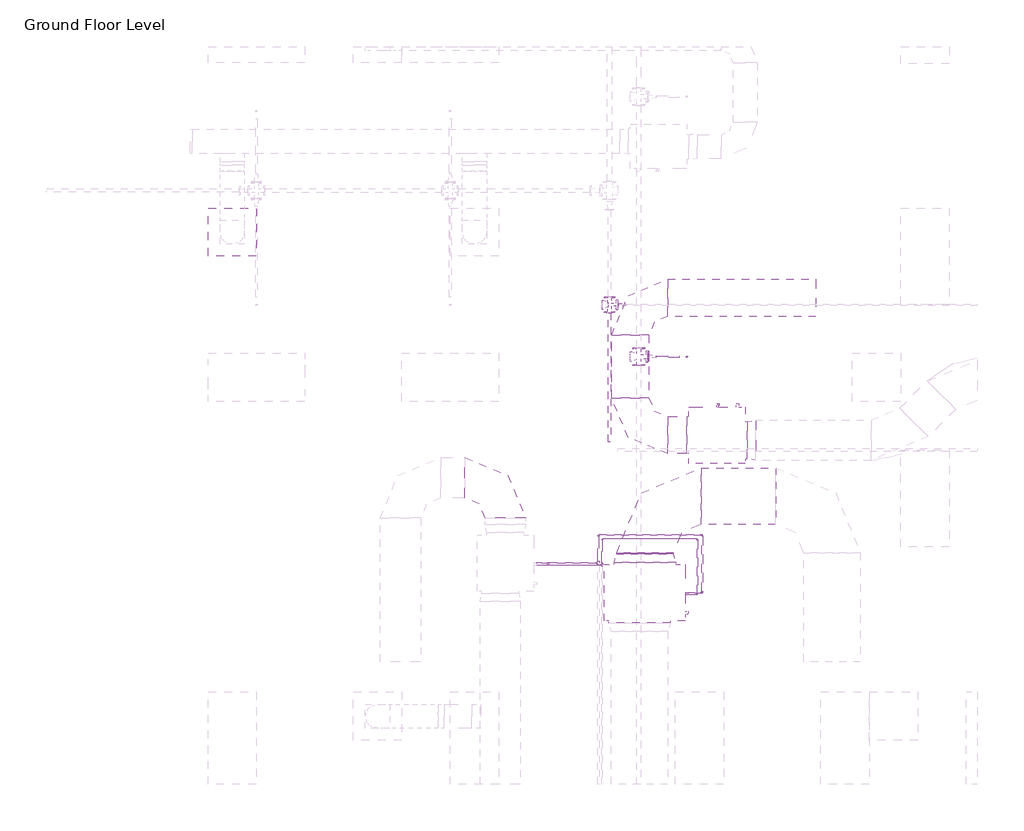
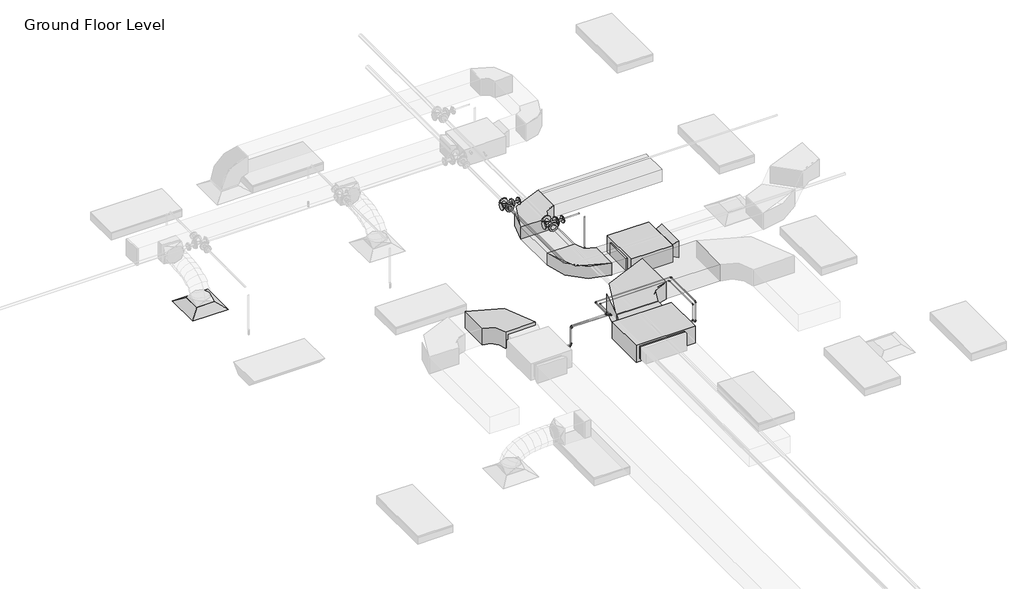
# One storey, part 33 of 66: 22 pipe fittings, 19 pipe segments, 6 duct fittings, 5 duct segments, 2 proxies, 1 air terminal, 1 fire suppression terminal.
"""IFC4 building model written with IfcOpenShell, lengths in millimetres."""

from ifc_helpers import new_model, si_unit, point, frame, frame_2d, origin, place, context, project, spatial, polyline, circle_curve, trimmed, segment, composite_curve, outline, extrude, transform, mapped, element, save
from components import m_return_diffuser_600_x_600_face_300_x_300_connection_ff221211, fcu_daikin_iu_7e1df382, fcu_daikin_iu_bad131e0, m_rectangular_elbow_radius_1_w_54c96895, m_rectangular_elbow_radius_1_w_abe20169, m_rectangular_elbow_radius_1_w_8a62b27e, m_rectangular_transition_angle_45_degree_2b595dfe, m_rectangular_transition_angle_45_degree_603cf0b0, m_sprinkler_pendent_15_mm_pendent_06fcbd8e, m_elbow_generic_standard_a088f956, m_elbow_generic_standard_2a704253, m_reducer_flanged_cs_class_150_standard_ccf252ad, m_reducer_flanged_cs_class_150_standard_83138b42, m_tee_generic_standard_cdc1cff5, m_tee_generic_standard_d9c36a1d, m_tee_round_base_flanged_cs_class_150_standard_7e5987a1, m_tee_round_base_flanged_cs_class_150_standard_ab36f383, m_transition_generic_standard_6dc712c0, m_transition_generic_standard_b63c8674

model = new_model("IFC4")

# Units and contexts
model_context = context("Model", 3, world=origin())
ifc_project = project(units=[si_unit("LENGTHUNIT", "METRE", prefix="MILLI")], contexts=[model_context])

# Site, building, storey
site = spatial("IfcSite", under=ifc_project)
building = spatial("IfcBuilding", under=site)
storey = spatial("IfcBuildingStorey", under=building, Name="Ground Floor Level", Elevation=900.0)

# Air terminal
placement = place(None, origin())
m_return_diffuser_600_x_600_face_300_x_300_connection_shape = m_return_diffuser_600_x_600_face_300_x_300_connection_ff221211(model_context)
element("IfcAirTerminal", 1, ObjectType="M_Supply Diffuser : 600 x 600 Face 300 x 300 Connection", at=placement, inside=storey, context=model_context, shape_type="MappedRepresentation", body=[
    mapped(m_return_diffuser_600_x_600_face_300_x_300_connection_shape, transform((962.7672395, -3464.7846466, 3650.0), x_axis=(1.0, 0.0, 0.0), y_axis=(0.0, 1.0, 0.0), z_axis=(0.0, 0.0, 1.0))),
])

# Proxies
fcu_daikin_iu_shape = fcu_daikin_iu_7e1df382(model_context)
element("IfcBuildingElementProxy", 2, Name="FCU-DAIKIN IU : 7.2kW, 230V/50Hz/1Ph", ObjectType="FCU-DAIKIN IU : 7.2kW, 230V/50Hz/1Ph", at=placement, inside=storey, context=model_context, shape_type="MappedRepresentation", body=[
    mapped(fcu_daikin_iu_shape, transform((6073.4139492, -7933.9358641, 3934.0875), x_axis=(1.0, 0.0, 0.0), y_axis=(0.0, 1.0, 0.0), z_axis=(0.0, 0.0, 1.0))),
])
fcu_daikin_iu_2_shape = fcu_daikin_iu_bad131e0(model_context)
element("IfcBuildingElementProxy", 3, Name="FCU-DAIKIN IU : 4.5kW, 230V/50Hz/1Ph", ObjectType="FCU-DAIKIN IU : 4.5kW, 230V/50Hz/1Ph", at=placement, inside=storey, context=model_context, shape_type="MappedRepresentation", body=[
    mapped(fcu_daikin_iu_2_shape, transform((6968.8139492, -5980.3220473, 3934.0932729), x_axis=(0.0, 1.0, 0.0), y_axis=(-1.0, 0.0, 0.0), z_axis=(0.0, 0.0, 1.0))),
])

# Duct fittings
m_rectangular_elbow_radius_1_w_shape = m_rectangular_elbow_radius_1_w_54c96895(model_context)
element("IfcDuctFitting", 4, ObjectType="M_Rectangular Elbow - Radius : 1 W", at=placement, inside=storey, context=model_context, shape_type="MappedRepresentation", body=[
    mapped(m_rectangular_elbow_radius_1_w_shape, transform((5893.4139492, -5980.3220473, 4075.2932729), x_axis=(0.0, -1.0, 0.0), y_axis=(1.0, 0.0, 0.0), z_axis=(0.0, 0.0, 1.0))),
])
element("IfcDuctFitting", 5, ObjectType="M_Rectangular Elbow - Radius : 1 W", at=placement, inside=storey, context=model_context, shape_type="MappedRepresentation", body=[
    mapped(m_rectangular_elbow_radius_1_w_shape, transform((5893.4139492, -4280.3216051, 4075.2932729), x_axis=(-1.0, 0.0, 0.0), y_axis=(0.0, -1.0, 0.0), z_axis=(0.0, 0.0, 1.0))),
])
m_rectangular_elbow_radius_1_w_2_shape = m_rectangular_elbow_radius_1_w_abe20169(model_context)
element("IfcDuctFitting", 6, ObjectType="M_Rectangular Elbow - Radius : 1 W", at=placement, inside=storey, context=model_context, shape_type="MappedRepresentation", body=[
    mapped(m_rectangular_elbow_radius_1_w_2_shape, transform((4345.6581888, -6509.6566353, 4075.2874218), x_axis=(0.0, 1.0, 0.0), y_axis=(-1.0, 0.0, 0.0), z_axis=(0.0, 0.0, 1.0))),
])
m_rectangular_elbow_radius_1_w_3_shape = m_rectangular_elbow_radius_1_w_8a62b27e(model_context)
element("IfcDuctFitting", 7, ObjectType="M_Rectangular Elbow - Radius : 1 W", at=placement, inside=storey, context=model_context, shape_type="MappedRepresentation", body=[
    mapped(m_rectangular_elbow_radius_1_w_3_shape, transform((6073.4139492, -6738.5358641, 4075.2875), x_axis=(-1.0, 0.0, 0.0), y_axis=(0.0, -1.0, 0.0), z_axis=(0.0, 0.0, 1.0))),
])
m_rectangular_transition_angle_45_degree_shape = m_rectangular_transition_angle_45_degree_2b595dfe(model_context)
element("IfcDuctFitting", 8, ObjectType="M_Rectangular Transition - Angle : 45 Degree", at=placement, inside=storey, context=model_context, shape_type="MappedRepresentation", body=[
    mapped(m_rectangular_transition_angle_45_degree_shape, transform((7344.2139492, -6043.8220473, 4100.0057729), x_axis=(1.0, 0.0, 0.0), y_axis=(0.0, 1.0, 0.0), z_axis=(0.0, 0.0, 1.0))),
])
m_rectangular_transition_angle_45_degree_2_shape = m_rectangular_transition_angle_45_degree_603cf0b0(model_context)
element("IfcDuctFitting", 9, ObjectType="M_Rectangular Transition - Angle : 45 Degree", at=placement, inside=storey, context=model_context, shape_type="MappedRepresentation", body=[
    mapped(m_rectangular_transition_angle_45_degree_2_shape, transform((6073.4139492, -7558.5358641, 4075.2875), x_axis=(0.0, 1.0, 0.0), y_axis=(-1.0, 0.0, 0.0), z_axis=(0.0, 0.0, 1.0))),
])

# Duct segments
element("IfcDuctSegment", 10, ObjectType="Radius Elbows / Taps", at=placement, inside=storey, context=model_context, shape_type="SweptSolid", body=[
    extrude(outline(polyline([(6593.4139492, -5749.3845473), (6593.4139492, -6211.2595473), (6355.2889492, -6211.2595473), (6355.2889492, -5749.3845473), (6593.4139492, -5749.3845473)])), frame((0.0, 0.0, 3968.1432729), z_axis=(0.0, 0.0, 1.0), x_axis=(1.0, 0.0, 0.0)), (0.0, 0.0, 1.0), 214.3),
])
element("IfcDuctSegment", 11, ObjectType="Radius Elbows / Taps", at=placement, inside=storey, context=model_context, shape_type="SweptSolid", body=[
    extrude(outline(polyline([(6124.3514492, -5518.4470473), (5662.4764492, -5518.4470473), (5662.4764492, -4742.1966051), (6124.3514492, -4742.1966051), (6124.3514492, -5518.4470473)])), frame((0.0, 0.0, 3968.1432729), z_axis=(0.0, 0.0, 1.0), x_axis=(1.0, 0.0, 0.0)), (0.0, 0.0, 1.0), 214.3),
])
element("IfcDuctSegment", 12, ObjectType="Radius Elbows / Taps", at=placement, inside=storey, context=model_context, shape_type="SweptSolid", body=[
    extrude(outline(polyline([(6355.2889492, -4511.2591051), (6355.2889492, -4049.3841051), (8193.4139492, -4049.3841051), (8193.4139492, -4511.2591051), (6355.2889492, -4511.2591051)])), frame((0.0, 0.0, 3968.1432729), z_axis=(0.0, 0.0, 1.0), x_axis=(1.0, 0.0, 0.0)), (0.0, 0.0, 1.0), 214.3),
])
element("IfcDuctSegment", 13, ObjectType="Radius Elbows / Taps", at=placement, inside=storey, context=model_context, shape_type="SweptSolid", body=[
    extrude(outline(polyline([(6423.4139492, -7455.086813), (5723.4139492, -7455.086813), (5723.4139492, -7438.5358641), (6423.4139492, -7438.5358641), (6423.4139492, -7455.086813)])), frame((0.0, 0.0, 3925.2875), z_axis=(0.0, 0.0, 1.0), x_axis=(1.0, 0.0, 0.0)), (0.0, 0.0, 1.0), 300.0),
])
element("IfcDuctSegment", 14, ObjectType="Radius Elbows / Taps", at=placement, inside=storey, context=model_context, shape_type="SweptSolid", body=[
    extrude(outline(polyline([(6773.4139492, -7088.5358641), (6773.4139492, -6388.5358641), (7693.4139492, -6388.5358641), (7693.4139492, -7088.5358641), (6773.4139492, -7088.5358641)])), frame((0.0, 0.0, 3925.2875), z_axis=(0.0, 0.0, 1.0), x_axis=(1.0, 0.0, 0.0)), (0.0, 0.0, 1.0), 300.0),
])

# Fire suppression terminal
m_sprinkler_pendent_15_mm_pendent_shape = m_sprinkler_pendent_15_mm_pendent_06fcbd8e(model_context)
element("IfcFireSuppressionTerminal", 15, ObjectType="M_Sprinkler - Pendent : 15 mm Pendent", at=placement, inside=storey, context=model_context, shape_type="MappedRepresentation", body=[
    mapped(m_sprinkler_pendent_15_mm_pendent_shape, transform((6592.5481019, -5008.8364761, 3650.0), x_axis=(1.0, 0.0, 0.0), y_axis=(0.0, 1.0, 0.0), z_axis=(0.0, 0.0, 1.0))),
])

# Pipe fittings
m_elbow_generic_standard_shape = m_elbow_generic_standard_a088f956(model_context)
element("IfcPipeFitting", 16, ObjectType="M_Elbow - Generic : Standard", at=placement, inside=storey, context=model_context, shape_type="MappedRepresentation", body=[
    mapped(m_elbow_generic_standard_shape, transform((4878.7581888, -7565.0566353, 4034.0874218), x_axis=(1.0, 0.0, 0.0), y_axis=(0.0, 0.0, 1.0), z_axis=(0.0, -1.0, 0.0))),
])
element("IfcPipeFitting", 17, ObjectType="M_Elbow - Generic : Standard", at=placement, inside=storey, context=model_context, shape_type="MappedRepresentation", body=[
    mapped(m_elbow_generic_standard_shape, transform((4878.7581888, -7565.0566353, 4390.0), x_axis=(0.0, 0.0, 1.0), y_axis=(1.0, 0.0, 0.0), z_axis=(0.0, 1.0, 0.0))),
])
element("IfcPipeFitting", 18, ObjectType="M_Elbow - Generic : Standard", at=placement, inside=storey, context=model_context, shape_type="MappedRepresentation", body=[
    mapped(m_elbow_generic_standard_shape, transform((5497.8951827, -7216.0289893, 4390.0), x_axis=(-1.0, 0.0, 0.0), y_axis=(0.0, -1.0, 0.0), z_axis=(0.0, 0.0, 1.0))),
])
element("IfcPipeFitting", 19, ObjectType="M_Elbow - Generic : Standard", at=placement, inside=storey, context=model_context, shape_type="MappedRepresentation", body=[
    mapped(m_elbow_generic_standard_shape, transform((6782.8951827, -7216.0289893, 4390.0), x_axis=(0.0, 1.0, 0.0), y_axis=(-1.0, 0.0, 0.0), z_axis=(0.0, 0.0, 1.0))),
])
element("IfcPipeFitting", 20, ObjectType="M_Elbow - Generic : Standard", at=placement, inside=storey, context=model_context, shape_type="MappedRepresentation", body=[
    mapped(m_elbow_generic_standard_shape, transform((6782.8951827, -7933.9358641, 4390.0), x_axis=(0.0, -1.0, 0.0), y_axis=(0.0, 0.0, -1.0), z_axis=(1.0, 0.0, 0.0))),
])
element("IfcPipeFitting", 21, ObjectType="M_Elbow - Generic : Standard", at=placement, inside=storey, context=model_context, shape_type="MappedRepresentation", body=[
    mapped(m_elbow_generic_standard_shape, transform((6782.8951827, -7933.9358641, 4034.0875), x_axis=(0.0, 0.0, -1.0), y_axis=(-1.0, 0.0, 0.0), z_axis=(0.0, 1.0, 0.0))),
])
m_elbow_generic_standard_2_shape = m_elbow_generic_standard_2a704253(model_context)
element("IfcPipeFitting", 22, ObjectType="M_Elbow - Generic : Standard", at=placement, inside=storey, context=model_context, shape_type="MappedRepresentation", body=[
    mapped(m_elbow_generic_standard_2_shape, transform((4878.7581888, -7590.0566353, 4084.8874218), x_axis=(1.0, 0.0, 0.0), y_axis=(0.0, 0.0, 1.0), z_axis=(0.0, -1.0, 0.0))),
])
element("IfcPipeFitting", 23, ObjectType="M_Elbow - Generic : Standard", at=placement, inside=storey, context=model_context, shape_type="MappedRepresentation", body=[
    mapped(m_elbow_generic_standard_2_shape, transform((4878.7581888, -7590.0566353, 4377.5), x_axis=(0.0, 0.0, 1.0), y_axis=(1.0, 0.0, 0.0), z_axis=(0.0, 1.0, 0.0))),
])
element("IfcPipeFitting", 24, ObjectType="M_Elbow - Generic : Standard", at=placement, inside=storey, context=model_context, shape_type="MappedRepresentation", body=[
    mapped(m_elbow_generic_standard_2_shape, transform((5543.9904113, -7267.2400492, 4377.5), x_axis=(-1.0, 0.0, 0.0), y_axis=(0.0, -1.0, 0.0), z_axis=(0.0, 0.0, 1.0))),
])
element("IfcPipeFitting", 25, ObjectType="M_Elbow - Generic : Standard", at=placement, inside=storey, context=model_context, shape_type="MappedRepresentation", body=[
    mapped(m_elbow_generic_standard_2_shape, transform((6723.9904113, -7267.2400492, 4377.5), x_axis=(0.0, 1.0, 0.0), y_axis=(-1.0, 0.0, 0.0), z_axis=(0.0, 0.0, 1.0))),
])
element("IfcPipeFitting", 26, ObjectType="M_Elbow - Generic : Standard", at=placement, inside=storey, context=model_context, shape_type="MappedRepresentation", body=[
    mapped(m_elbow_generic_standard_2_shape, transform((6723.9904113, -7958.9358641, 4377.5), x_axis=(0.0, -1.0, 0.0), y_axis=(0.0, 0.0, -1.0), z_axis=(1.0, 0.0, 0.0))),
])
element("IfcPipeFitting", 27, ObjectType="M_Elbow - Generic : Standard", at=placement, inside=storey, context=model_context, shape_type="MappedRepresentation", body=[
    mapped(m_elbow_generic_standard_2_shape, transform((6723.9904113, -7958.9358641, 4084.8875), x_axis=(0.0, 0.0, -1.0), y_axis=(-1.0, 0.0, 0.0), z_axis=(0.0, 1.0, 0.0))),
])
m_reducer_flanged_cs_class_150_standard_shape = m_reducer_flanged_cs_class_150_standard_ccf252ad(model_context)
element("IfcPipeFitting", 28, ObjectType="M_Reducer - Flanged - CS - Class 150 : Standard", at=placement, inside=storey, context=model_context, shape_type="MappedRepresentation", body=[
    mapped(m_reducer_flanged_cs_class_150_standard_shape, transform((5736.5780918, -4364.7846466, 4360.0), x_axis=(1.0, 0.0, 0.0), y_axis=(0.0, 0.0, 1.0), z_axis=(0.0, -1.0, 0.0))),
])
m_reducer_flanged_cs_class_150_standard_2_shape = m_reducer_flanged_cs_class_150_standard_83138b42(model_context)
element("IfcPipeFitting", 29, ObjectType="M_Reducer - Flanged - CS - Class 150 : Standard", at=placement, inside=storey, context=model_context, shape_type="MappedRepresentation", body=[
    mapped(m_reducer_flanged_cs_class_150_standard_2_shape, transform((6109.3164057, -5008.8364761, 4291.2754753), x_axis=(1.0, 0.0, 0.0), y_axis=(0.0, 0.0, -1.0), z_axis=(0.0, 1.0, 0.0))),
])
m_tee_generic_standard_shape = m_tee_generic_standard_cdc1cff5(model_context)
element("IfcPipeFitting", 30, ObjectType="M_Tee - Generic : Standard", at=placement, inside=storey, context=model_context, shape_type="MappedRepresentation", body=[
    mapped(m_tee_generic_standard_shape, transform((5497.8951827, -7565.0566353, 4390.0), x_axis=(0.0, -1.0, 0.0), y_axis=(1.0, 0.0, 0.0), z_axis=(0.0, 0.0, 1.0))),
])
m_tee_generic_standard_2_shape = m_tee_generic_standard_d9c36a1d(model_context)
element("IfcPipeFitting", 31, ObjectType="M_Tee - Generic : Standard", at=placement, inside=storey, context=model_context, shape_type="MappedRepresentation", body=[
    mapped(m_tee_generic_standard_2_shape, transform((5543.9904113, -7590.0566353, 4377.5), x_axis=(0.0, -1.0, 0.0), y_axis=(1.0, 0.0, 0.0), z_axis=(0.0, 0.0, 1.0))),
])
m_tee_round_base_flanged_cs_class_150_standard_shape = m_tee_round_base_flanged_cs_class_150_standard_7e5987a1(model_context)
element("IfcPipeFitting", 32, ObjectType="M_Tee Round Base - Flanged - CS - Class 150 : Standard", at=placement, inside=storey, context=model_context, shape_type="MappedRepresentation", body=[
    mapped(m_tee_round_base_flanged_cs_class_150_standard_shape, transform((5635.869498, -4364.7846466, 4360.0), x_axis=(0.0, 1.0, 0.0), y_axis=(-1.0, 0.0, 0.0), z_axis=(0.0, 0.0, 1.0))),
])
m_tee_round_base_flanged_cs_class_150_standard_2_shape = m_tee_round_base_flanged_cs_class_150_standard_ab36f383(model_context)
element("IfcPipeFitting", 33, ObjectType="M_Tee Round Base - Flanged - CS - Class 150 : Standard", at=placement, inside=storey, context=model_context, shape_type="MappedRepresentation", body=[
    mapped(m_tee_round_base_flanged_cs_class_150_standard_2_shape, transform((5997.057812, -5008.8364761, 4291.0943441), x_axis=(0.0, 1.0, 0.0), y_axis=(-1.0, 0.0, 0.0), z_axis=(0.0, 0.0, 1.0))),
])
m_transition_generic_standard_shape = m_transition_generic_standard_6dc712c0(model_context)
element("IfcPipeFitting", 34, ObjectType="M_Transition - Generic : Standard", at=placement, inside=storey, context=model_context, shape_type="MappedRepresentation", body=[
    mapped(m_transition_generic_standard_shape, transform((5475.6701827, -7565.0566353, 4390.0), x_axis=(-1.0, 0.0, 0.0), y_axis=(0.0, -1.0, 0.0), z_axis=(0.0, 0.0, 1.0))),
])
element("IfcPipeFitting", 35, ObjectType="M_Transition - Generic : Standard", at=placement, inside=storey, context=model_context, shape_type="MappedRepresentation", body=[
    mapped(m_transition_generic_standard_shape, transform((5497.8951827, -7542.8316353, 4390.0), x_axis=(0.0, 1.0, 0.0), y_axis=(-1.0, 0.0, 0.0), z_axis=(0.0, 0.0, 1.0))),
])
m_transition_generic_standard_2_shape = m_transition_generic_standard_b63c8674(model_context)
element("IfcPipeFitting", 36, ObjectType="M_Transition - Generic : Standard", at=placement, inside=storey, context=model_context, shape_type="MappedRepresentation", body=[
    mapped(m_transition_generic_standard_2_shape, transform((5524.9529113, -7590.0566353, 4377.5), x_axis=(-1.0, 0.0, 0.0), y_axis=(0.0, -1.0, 0.0), z_axis=(0.0, 0.0, 1.0))),
])
element("IfcPipeFitting", 37, ObjectType="M_Transition - Generic : Standard", at=placement, inside=storey, context=model_context, shape_type="MappedRepresentation", body=[
    mapped(m_transition_generic_standard_2_shape, transform((5543.9904113, -7571.0191353, 4377.5), x_axis=(0.0, 1.0, 0.0), y_axis=(-1.0, 0.0, 0.0), z_axis=(0.0, 0.0, 1.0))),
])

# Pipe segments
element("IfcPipeSegment", 38, ObjectType="Copper", at=placement, inside=storey, context=model_context, shape_type="SweptSolid", body=[
    extrude(outline(composite_curve([segment(trimmed(circle_curve(frame_2d((4390.0, 5497.8951827)), 6.5), [point((4390.0, 5504.3951827))], [point((4396.5, 5497.8951827))], False, "CARTESIAN"), True, "CONTINUOUS"), segment(trimmed(circle_curve(frame_2d((4390.0, 5497.8951827)), 6.5), [point((4396.5, 5497.8951827))], [point((4390.0, 5491.3951827))], False, "CARTESIAN"), True, "CONTINUOUS"), segment(trimmed(circle_curve(frame_2d((4390.0, 5497.8951827)), 6.5), [point((4390.0, 5491.3951827))], [point((4383.5, 5497.8951827))], False, "CARTESIAN"), True, "CONTINUOUS"), segment(trimmed(circle_curve(frame_2d((4390.0, 5497.8951827)), 6.5), [point((4383.5, 5497.8951827))], [point((4390.0, 5504.3951827))], False, "CARTESIAN"), True, "CONTINUOUS")], self_intersect=False)), frame((0.0, -7538.0691353, 0.0), z_axis=(0.0, 1.0, 0.0), x_axis=(0.0, 0.0, 1.0)), (0.0, 0.0, 1.0), 307.7526461),
])
element("IfcPipeSegment", 39, ObjectType="Copper", at=placement, inside=storey, context=model_context, shape_type="SweptSolid", body=[
    extrude(outline(composite_curve([segment(trimmed(circle_curve(frame_2d((-7590.0566353, 4084.8874218)), 3.35), [point((-7593.4066353, 4084.8874218))], [point((-7590.0566353, 4088.2374218))], False, "CARTESIAN"), True, "CONTINUOUS"), segment(trimmed(circle_curve(frame_2d((-7590.0566353, 4084.8874218)), 3.35), [point((-7590.0566353, 4088.2374218))], [point((-7586.7066353, 4084.8874218))], False, "CARTESIAN"), True, "CONTINUOUS"), segment(trimmed(circle_curve(frame_2d((-7590.0566353, 4084.8874218)), 3.35), [point((-7586.7066353, 4084.8874218))], [point((-7590.0566353, 4081.5374218))], False, "CARTESIAN"), True, "CONTINUOUS"), segment(trimmed(circle_curve(frame_2d((-7590.0566353, 4084.8874218)), 3.35), [point((-7590.0566353, 4081.5374218))], [point((-7593.4066353, 4084.8874218))], False, "CARTESIAN"), True, "CONTINUOUS")], self_intersect=False)), frame((4733.7581888, 0.0, 0.0), z_axis=(1.0, 0.0, 0.0), x_axis=(0.0, 1.0, 0.0)), (0.0, 0.0, 1.0), 133.8625),
])
element("IfcPipeSegment", 40, ObjectType="Copper", at=placement, inside=storey, context=model_context, shape_type="SweptSolid", body=[
    extrude(outline(composite_curve([segment(trimmed(circle_curve(frame_2d((-7565.0566353, 4034.0874218)), 6.5), [point((-7571.5566353, 4034.0874218))], [point((-7565.0566353, 4040.5874218))], False, "CARTESIAN"), True, "CONTINUOUS"), segment(trimmed(circle_curve(frame_2d((-7565.0566353, 4034.0874218)), 6.5), [point((-7565.0566353, 4040.5874218))], [point((-7558.5566353, 4034.0874218))], False, "CARTESIAN"), True, "CONTINUOUS"), segment(trimmed(circle_curve(frame_2d((-7565.0566353, 4034.0874218)), 6.5), [point((-7558.5566353, 4034.0874218))], [point((-7565.0566353, 4027.5874218))], False, "CARTESIAN"), True, "CONTINUOUS"), segment(trimmed(circle_curve(frame_2d((-7565.0566353, 4034.0874218)), 6.5), [point((-7565.0566353, 4027.5874218))], [point((-7571.5566353, 4034.0874218))], False, "CARTESIAN"), True, "CONTINUOUS")], self_intersect=False)), frame((4733.7581888, 0.0, 0.0), z_axis=(1.0, 0.0, 0.0), x_axis=(0.0, 1.0, 0.0)), (0.0, 0.0, 1.0), 130.7125),
])
element("IfcPipeSegment", 41, ObjectType="Copper", at=placement, inside=storey, context=model_context, shape_type="SweptSolid", body=[
    extrude(outline(composite_curve([segment(trimmed(circle_curve(frame_2d((-7590.0566353, 4377.5)), 3.35), [point((-7593.4066353, 4377.5))], [point((-7590.0566353, 4380.85))], False, "CARTESIAN"), True, "CONTINUOUS"), segment(trimmed(circle_curve(frame_2d((-7590.0566353, 4377.5)), 3.35), [point((-7590.0566353, 4380.85))], [point((-7586.7066353, 4377.5))], False, "CARTESIAN"), True, "CONTINUOUS"), segment(trimmed(circle_curve(frame_2d((-7590.0566353, 4377.5)), 3.35), [point((-7586.7066353, 4377.5))], [point((-7590.0566353, 4374.15))], False, "CARTESIAN"), True, "CONTINUOUS"), segment(trimmed(circle_curve(frame_2d((-7590.0566353, 4377.5)), 3.35), [point((-7590.0566353, 4374.15))], [point((-7593.4066353, 4377.5))], False, "CARTESIAN"), True, "CONTINUOUS")], self_intersect=False)), frame((4889.8956888, 0.0, 0.0), z_axis=(1.0, 0.0, 0.0), x_axis=(0.0, 1.0, 0.0)), (0.0, 0.0, 1.0), 631.8884725),
])
element("IfcPipeSegment", 42, ObjectType="Copper", at=placement, inside=storey, context=model_context, shape_type="SweptSolid", body=[
    extrude(outline(composite_curve([segment(trimmed(circle_curve(frame_2d((4878.7581888, -7590.0566353)), 3.35), [point((4875.4081888, -7590.0566353))], [point((4878.7581888, -7586.7066353))], False, "CARTESIAN"), True, "CONTINUOUS"), segment(trimmed(circle_curve(frame_2d((4878.7581888, -7590.0566353)), 3.35), [point((4878.7581888, -7586.7066353))], [point((4882.1081888, -7590.0566353))], False, "CARTESIAN"), True, "CONTINUOUS"), segment(trimmed(circle_curve(frame_2d((4878.7581888, -7590.0566353)), 3.35), [point((4882.1081888, -7590.0566353))], [point((4878.7581888, -7593.4066353))], False, "CARTESIAN"), True, "CONTINUOUS"), segment(trimmed(circle_curve(frame_2d((4878.7581888, -7590.0566353)), 3.35), [point((4878.7581888, -7593.4066353))], [point((4875.4081888, -7590.0566353))], False, "CARTESIAN"), True, "CONTINUOUS")], self_intersect=False)), frame((0.0, 0.0, 4096.0249218), z_axis=(0.0, 0.0, 1.0), x_axis=(1.0, 0.0, 0.0)), (0.0, 0.0, 1.0), 270.3375782),
])
element("IfcPipeSegment", 43, ObjectType="Copper", at=placement, inside=storey, context=model_context, shape_type="SweptSolid", body=[
    extrude(outline(composite_curve([segment(trimmed(circle_curve(frame_2d((-7565.0566353, 4390.0)), 6.5), [point((-7558.5566353, 4390.0))], [point((-7565.0566353, 4383.5))], False, "CARTESIAN"), True, "CONTINUOUS"), segment(trimmed(circle_curve(frame_2d((-7565.0566353, 4390.0)), 6.5), [point((-7565.0566353, 4383.5))], [point((-7571.5566353, 4390.0))], False, "CARTESIAN"), True, "CONTINUOUS"), segment(trimmed(circle_curve(frame_2d((-7565.0566353, 4390.0)), 6.5), [point((-7571.5566353, 4390.0))], [point((-7565.0566353, 4396.5))], False, "CARTESIAN"), True, "CONTINUOUS"), segment(trimmed(circle_curve(frame_2d((-7565.0566353, 4390.0)), 6.5), [point((-7565.0566353, 4396.5))], [point((-7558.5566353, 4390.0))], False, "CARTESIAN"), True, "CONTINUOUS")], self_intersect=False)), frame((4893.0456888, 0.0, 0.0), z_axis=(1.0, 0.0, 0.0), x_axis=(0.0, 1.0, 0.0)), (0.0, 0.0, 1.0), 577.8619939),
])
element("IfcPipeSegment", 44, ObjectType="Copper", at=placement, inside=storey, context=model_context, shape_type="SweptSolid", body=[
    extrude(outline(composite_curve([segment(trimmed(circle_curve(frame_2d((4878.7581888, -7565.0566353)), 6.5), [point((4872.2581888, -7565.0566353))], [point((4878.7581888, -7558.5566353))], False, "CARTESIAN"), True, "CONTINUOUS"), segment(trimmed(circle_curve(frame_2d((4878.7581888, -7565.0566353)), 6.5), [point((4878.7581888, -7558.5566353))], [point((4885.2581888, -7565.0566353))], False, "CARTESIAN"), True, "CONTINUOUS"), segment(trimmed(circle_curve(frame_2d((4878.7581888, -7565.0566353)), 6.5), [point((4885.2581888, -7565.0566353))], [point((4878.7581888, -7571.5566353))], False, "CARTESIAN"), True, "CONTINUOUS"), segment(trimmed(circle_curve(frame_2d((4878.7581888, -7565.0566353)), 6.5), [point((4878.7581888, -7571.5566353))], [point((4872.2581888, -7565.0566353))], False, "CARTESIAN"), True, "CONTINUOUS")], self_intersect=False)), frame((0.0, 0.0, 4048.3749218), z_axis=(0.0, 0.0, 1.0), x_axis=(1.0, 0.0, 0.0)), (0.0, 0.0, 1.0), 327.3375782),
])
element("IfcPipeSegment", 45, ObjectType="Copper", at=placement, inside=storey, context=model_context, shape_type="SweptSolid", body=[
    extrude(outline(composite_curve([segment(trimmed(circle_curve(frame_2d((0.0, 3.35)), 3.35), [point((0.0, 6.7))], [point((3.35, 3.35))], False, "CARTESIAN"), True, "CONTINUOUS"), segment(trimmed(circle_curve(frame_2d((0.0, 3.35)), 3.35), [point((3.35, 3.35))], [point((0.0, 0.0))], False, "CARTESIAN"), True, "CONTINUOUS"), segment(trimmed(circle_curve(frame_2d((0.0, 3.35)), 3.35), [point((0.0, 0.0))], [point((-3.35, 3.35))], False, "CARTESIAN"), True, "CONTINUOUS"), segment(trimmed(circle_curve(frame_2d((0.0, 3.35)), 3.35), [point((-3.35, 3.35))], [point((0.0, 6.7))], False, "CARTESIAN"), True, "CONTINUOUS")], self_intersect=False)), frame((5540.6404113, -7567.8503853, 4377.5), z_axis=(-5.656768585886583e-12, 1.0, 0.0), x_axis=(0.0, 0.0, 1.0)), (0.0, 0.0, 1.0), 289.4728361),
])
element("IfcPipeSegment", 46, ObjectType="Copper", at=placement, inside=storey, context=model_context, shape_type="SweptSolid", body=[
    extrude(outline(composite_curve([segment(trimmed(circle_curve(frame_2d((-7267.2400492, 4377.5)), 3.35), [point((-7270.5900492, 4377.5))], [point((-7267.2400492, 4380.85))], False, "CARTESIAN"), True, "CONTINUOUS"), segment(trimmed(circle_curve(frame_2d((-7267.2400492, 4377.5)), 3.35), [point((-7267.2400492, 4380.85))], [point((-7263.8900492, 4377.5))], False, "CARTESIAN"), True, "CONTINUOUS"), segment(trimmed(circle_curve(frame_2d((-7267.2400492, 4377.5)), 3.35), [point((-7263.8900492, 4377.5))], [point((-7267.2400492, 4374.15))], False, "CARTESIAN"), True, "CONTINUOUS"), segment(trimmed(circle_curve(frame_2d((-7267.2400492, 4377.5)), 3.35), [point((-7267.2400492, 4374.15))], [point((-7270.5900492, 4377.5))], False, "CARTESIAN"), True, "CONTINUOUS")], self_intersect=False)), frame((5555.1279113, 0.0, 0.0), z_axis=(1.0, 0.0, 0.0), x_axis=(0.0, 1.0, 0.0)), (0.0, 0.0, 1.0), 1157.725),
])
element("IfcPipeSegment", 47, ObjectType="Copper", at=placement, inside=storey, context=model_context, shape_type="SweptSolid", body=[
    extrude(outline(composite_curve([segment(trimmed(circle_curve(frame_2d((4377.5, 6723.9904113)), 3.35), [point((4377.5, 6720.6404113))], [point((4374.15, 6723.9904113))], False, "CARTESIAN"), True, "CONTINUOUS"), segment(trimmed(circle_curve(frame_2d((4377.5, 6723.9904113)), 3.35), [point((4374.15, 6723.9904113))], [point((4377.5, 6727.3404113))], False, "CARTESIAN"), True, "CONTINUOUS"), segment(trimmed(circle_curve(frame_2d((4377.5, 6723.9904113)), 3.35), [point((4377.5, 6727.3404113))], [point((4380.85, 6723.9904113))], False, "CARTESIAN"), True, "CONTINUOUS"), segment(trimmed(circle_curve(frame_2d((4377.5, 6723.9904113)), 3.35), [point((4380.85, 6723.9904113))], [point((4377.5, 6720.6404113))], False, "CARTESIAN"), True, "CONTINUOUS")], self_intersect=False)), frame((0.0, -7947.7983641, 0.0), z_axis=(0.0, 1.0, 0.0), x_axis=(0.0, 0.0, 1.0)), (0.0, 0.0, 1.0), 669.4208149),
])
element("IfcPipeSegment", 48, ObjectType="Copper", at=placement, inside=storey, context=model_context, shape_type="SweptSolid", body=[
    extrude(outline(composite_curve([segment(trimmed(circle_curve(frame_2d((-7216.0289893, 4390.0)), 6.5), [point((-7222.5289893, 4390.0))], [point((-7216.0289893, 4396.5))], False, "CARTESIAN"), True, "CONTINUOUS"), segment(trimmed(circle_curve(frame_2d((-7216.0289893, 4390.0)), 6.5), [point((-7216.0289893, 4396.5))], [point((-7209.5289893, 4390.0))], False, "CARTESIAN"), True, "CONTINUOUS"), segment(trimmed(circle_curve(frame_2d((-7216.0289893, 4390.0)), 6.5), [point((-7209.5289893, 4390.0))], [point((-7216.0289893, 4383.5))], False, "CARTESIAN"), True, "CONTINUOUS"), segment(trimmed(circle_curve(frame_2d((-7216.0289893, 4390.0)), 6.5), [point((-7216.0289893, 4383.5))], [point((-7222.5289893, 4390.0))], False, "CARTESIAN"), True, "CONTINUOUS")], self_intersect=False)), frame((5512.1826827, 0.0, 0.0), z_axis=(1.0, 0.0, 0.0), x_axis=(0.0, 1.0, 0.0)), (0.0, 0.0, 1.0), 1256.425),
])
element("IfcPipeSegment", 49, ObjectType="Copper", at=placement, inside=storey, context=model_context, shape_type="SweptSolid", body=[
    extrude(outline(composite_curve([segment(trimmed(circle_curve(frame_2d((4390.0, 6782.8951827)), 6.5), [point((4390.0, 6776.3951827))], [point((4383.5, 6782.8951827))], False, "CARTESIAN"), True, "CONTINUOUS"), segment(trimmed(circle_curve(frame_2d((4390.0, 6782.8951827)), 6.5), [point((4383.5, 6782.8951827))], [point((4390.0, 6789.3951827))], False, "CARTESIAN"), True, "CONTINUOUS"), segment(trimmed(circle_curve(frame_2d((4390.0, 6782.8951827)), 6.5), [point((4390.0, 6789.3951827))], [point((4396.5, 6782.8951827))], False, "CARTESIAN"), True, "CONTINUOUS"), segment(trimmed(circle_curve(frame_2d((4390.0, 6782.8951827)), 6.5), [point((4396.5, 6782.8951827))], [point((4390.0, 6776.3951827))], False, "CARTESIAN"), True, "CONTINUOUS")], self_intersect=False)), frame((0.0, -7919.6483641, 0.0), z_axis=(0.0, 1.0, 0.0), x_axis=(0.0, 0.0, 1.0)), (0.0, 0.0, 1.0), 689.3318749),
])
element("IfcPipeSegment", 50, ObjectType="Copper", at=placement, inside=storey, context=model_context, shape_type="SweptSolid", body=[
    extrude(outline(composite_curve([segment(trimmed(circle_curve(frame_2d((-7933.9358641, 4034.0875)), 6.5), [point((-7927.4358641, 4034.0875))], [point((-7933.9358641, 4027.5875))], False, "CARTESIAN"), True, "CONTINUOUS"), segment(trimmed(circle_curve(frame_2d((-7933.9358641, 4034.0875)), 6.5), [point((-7933.9358641, 4027.5875))], [point((-7940.4358641, 4034.0875))], False, "CARTESIAN"), True, "CONTINUOUS"), segment(trimmed(circle_curve(frame_2d((-7933.9358641, 4034.0875)), 6.5), [point((-7940.4358641, 4034.0875))], [point((-7933.9358641, 4040.5875))], False, "CARTESIAN"), True, "CONTINUOUS"), segment(trimmed(circle_curve(frame_2d((-7933.9358641, 4034.0875)), 6.5), [point((-7933.9358641, 4040.5875))], [point((-7927.4358641, 4034.0875))], False, "CARTESIAN"), True, "CONTINUOUS")], self_intersect=False)), frame((6611.5139492, 0.0, 0.0), z_axis=(1.0, 0.0, 0.0), x_axis=(0.0, 1.0, 0.0)), (0.0, 0.0, 1.0), 157.0937334),
])
element("IfcPipeSegment", 51, ObjectType="Copper", at=placement, inside=storey, context=model_context, shape_type="SweptSolid", body=[
    extrude(outline(composite_curve([segment(trimmed(circle_curve(frame_2d((-7958.9358641, 4084.8875)), 3.35), [point((-7955.5858641, 4084.8875))], [point((-7958.9358641, 4081.5375))], False, "CARTESIAN"), True, "CONTINUOUS"), segment(trimmed(circle_curve(frame_2d((-7958.9358641, 4084.8875)), 3.35), [point((-7958.9358641, 4081.5375))], [point((-7962.2858641, 4084.8875))], False, "CARTESIAN"), True, "CONTINUOUS"), segment(trimmed(circle_curve(frame_2d((-7958.9358641, 4084.8875)), 3.35), [point((-7962.2858641, 4084.8875))], [point((-7958.9358641, 4088.2375))], False, "CARTESIAN"), True, "CONTINUOUS"), segment(trimmed(circle_curve(frame_2d((-7958.9358641, 4084.8875)), 3.35), [point((-7958.9358641, 4088.2375))], [point((-7955.5858641, 4084.8875))], False, "CARTESIAN"), True, "CONTINUOUS")], self_intersect=False)), frame((6611.5139492, 0.0, 0.0), z_axis=(1.0, 0.0, 0.0), x_axis=(0.0, 1.0, 0.0)), (0.0, 0.0, 1.0), 101.3389621),
])
element("IfcPipeSegment", 52, ObjectType="Copper", at=placement, inside=storey, context=model_context, shape_type="SweptSolid", body=[
    extrude(outline(composite_curve([segment(trimmed(circle_curve(frame_2d((6723.9904113, -7958.9358641)), 3.35), [point((6727.3404113, -7958.9358641))], [point((6723.9904113, -7962.2858641))], False, "CARTESIAN"), True, "CONTINUOUS"), segment(trimmed(circle_curve(frame_2d((6723.9904113, -7958.9358641)), 3.35), [point((6723.9904113, -7962.2858641))], [point((6720.6404113, -7958.9358641))], False, "CARTESIAN"), True, "CONTINUOUS"), segment(trimmed(circle_curve(frame_2d((6723.9904113, -7958.9358641)), 3.35), [point((6720.6404113, -7958.9358641))], [point((6723.9904113, -7955.5858641))], False, "CARTESIAN"), True, "CONTINUOUS"), segment(trimmed(circle_curve(frame_2d((6723.9904113, -7958.9358641)), 3.35), [point((6723.9904113, -7955.5858641))], [point((6727.3404113, -7958.9358641))], False, "CARTESIAN"), True, "CONTINUOUS")], self_intersect=False)), frame((0.0, 0.0, 4096.025), z_axis=(0.0, 0.0, 1.0), x_axis=(1.0, 0.0, 0.0)), (0.0, 0.0, 1.0), 270.3375),
])
element("IfcPipeSegment", 53, ObjectType="Copper", at=placement, inside=storey, context=model_context, shape_type="SweptSolid", body=[
    extrude(outline(composite_curve([segment(trimmed(circle_curve(frame_2d((6782.8951827, -7933.9358641)), 6.5), [point((6789.3951827, -7933.9358641))], [point((6782.8951827, -7940.4358641))], False, "CARTESIAN"), True, "CONTINUOUS"), segment(trimmed(circle_curve(frame_2d((6782.8951827, -7933.9358641)), 6.5), [point((6782.8951827, -7940.4358641))], [point((6776.3951827, -7933.9358641))], False, "CARTESIAN"), True, "CONTINUOUS"), segment(trimmed(circle_curve(frame_2d((6782.8951827, -7933.9358641)), 6.5), [point((6776.3951827, -7933.9358641))], [point((6782.8951827, -7927.4358641))], False, "CARTESIAN"), True, "CONTINUOUS"), segment(trimmed(circle_curve(frame_2d((6782.8951827, -7933.9358641)), 6.5), [point((6782.8951827, -7927.4358641))], [point((6789.3951827, -7933.9358641))], False, "CARTESIAN"), True, "CONTINUOUS")], self_intersect=False)), frame((0.0, 0.0, 4048.375), z_axis=(0.0, 0.0, 1.0), x_axis=(1.0, 0.0, 0.0)), (0.0, 0.0, 1.0), 327.3375),
])
element("IfcPipeSegment", 54, ObjectType="Steel flanged", at=placement, inside=storey, context=model_context, shape_type="SweptSolid", body=[
    extrude(outline(composite_curve([segment(trimmed(circle_curve(frame_2d((6592.5481019, -5008.8364761)), 10.668), [point((6581.8801019, -5008.8364761))], [point((6592.5481019, -4998.1684761))], False, "CARTESIAN"), True, "CONTINUOUS"), segment(trimmed(circle_curve(frame_2d((6592.5481019, -5008.8364761)), 10.668), [point((6592.5481019, -4998.1684761))], [point((6603.2161019, -5008.8364761))], False, "CARTESIAN"), True, "CONTINUOUS"), segment(trimmed(circle_curve(frame_2d((6592.5481019, -5008.8364761)), 10.668), [point((6603.2161019, -5008.8364761))], [point((6592.5481019, -5019.5044761))], False, "CARTESIAN"), True, "CONTINUOUS"), segment(trimmed(circle_curve(frame_2d((6592.5481019, -5008.8364761)), 10.668), [point((6592.5481019, -5019.5044761))], [point((6581.8801019, -5008.8364761))], False, "CARTESIAN"), True, "CONTINUOUS")], self_intersect=False)), frame((0.0, 0.0, 3650.0), z_axis=(0.0, 0.0, 1.0), x_axis=(1.0, 0.0, 0.0)), (0.0, 0.0, 1.0), 548.2668816),
])
element("IfcPipeSegment", 55, ObjectType="Steel flanged", at=placement, inside=storey, context=model_context, shape_type="SweptSolid", body=[
    extrude(outline(composite_curve([segment(trimmed(circle_curve(frame_2d((-5008.8364761, 4291.2754753)), 10.668), [point((-4998.1684761, 4291.2754753))], [point((-5008.8364761, 4280.6074753))], False, "CARTESIAN"), True, "CONTINUOUS"), segment(trimmed(circle_curve(frame_2d((-5008.8364761, 4291.2754753)), 10.668), [point((-5008.8364761, 4280.6074753))], [point((-5019.5044761, 4291.2754753))], False, "CARTESIAN"), True, "CONTINUOUS"), segment(trimmed(circle_curve(frame_2d((-5008.8364761, 4291.2754753)), 10.668), [point((-5019.5044761, 4291.2754753))], [point((-5008.8364761, 4301.9434753))], False, "CARTESIAN"), True, "CONTINUOUS"), segment(trimmed(circle_curve(frame_2d((-5008.8364761, 4291.2754753)), 10.668), [point((-5008.8364761, 4301.9434753))], [point((-4998.1684761, 4291.2754753))], False, "CARTESIAN"), True, "CONTINUOUS")], self_intersect=False)), frame((6223.3164057, 0.0, 0.0), z_axis=(1.0, 0.0, 0.0), x_axis=(0.0, 1.0, 0.0)), (0.0, 0.0, 1.0), 276.2231025),
])
element("IfcPipeSegment", 56, ObjectType="Steel flanged", at=placement, inside=storey, context=model_context, shape_type="SweptSolid", body=[
    extrude(outline(composite_curve([segment(trimmed(circle_curve(frame_2d((4360.0, 5635.869498)), 16.7005), [point((4360.0, 5619.168998))], [point((4343.2995, 5635.869498))], False, "CARTESIAN"), True, "CONTINUOUS"), segment(trimmed(circle_curve(frame_2d((4360.0, 5635.869498)), 16.7005), [point((4343.2995, 5635.869498))], [point((4360.0, 5652.569998))], False, "CARTESIAN"), True, "CONTINUOUS"), segment(trimmed(circle_curve(frame_2d((4360.0, 5635.869498)), 16.7005), [point((4360.0, 5652.569998))], [point((4376.7005, 5635.869498))], False, "CARTESIAN"), True, "CONTINUOUS"), segment(trimmed(circle_curve(frame_2d((4360.0, 5635.869498)), 16.7005), [point((4376.7005, 5635.869498))], [point((4360.0, 5619.168998))], False, "CARTESIAN"), True, "CONTINUOUS")], self_intersect=False)), frame((0.0, -6064.0760529, 0.0), z_axis=(0.0, 1.0, 0.0), x_axis=(0.0, 0.0, 1.0)), (0.0, 0.0, 1.0), 1598.5828125),
])

save(model, "model.ifc")
